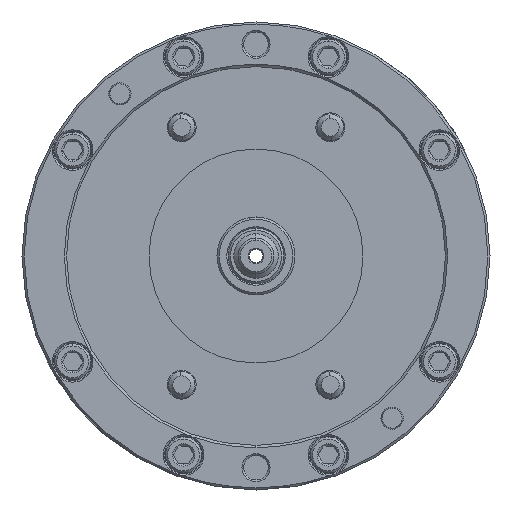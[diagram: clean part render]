
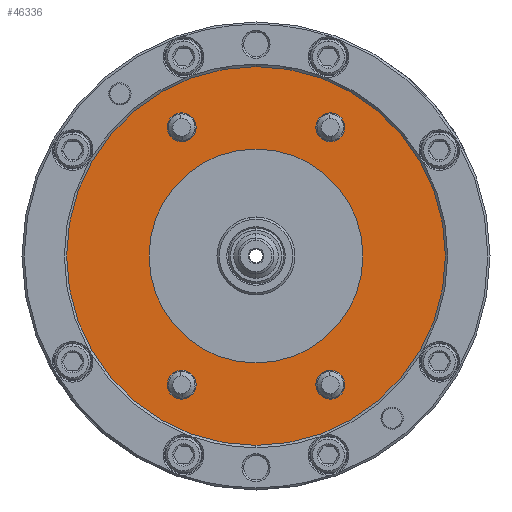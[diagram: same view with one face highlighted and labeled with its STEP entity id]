
A CAD part, left-side view. The second image highlights one B-rep face of the part: STEP entity #46336.
In plain terms, the highlighted planar face has unit normal (-1, 0, 0).
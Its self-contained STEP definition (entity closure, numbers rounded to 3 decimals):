
#1312 = CIRCLE ( 'NONE', #23426, 6.5 ) ;
#1395 = DIRECTION ( 'NONE',  ( 0., 0., 1. ) ) ;
#1400 = FACE_BOUND ( 'NONE', #44128, .T. ) ;
#2194 = DIRECTION ( 'NONE',  ( 1., 0., 0. ) ) ;
#3661 = EDGE_CURVE ( 'NONE', #8559, #10015, #21663, .T. ) ;
#4679 = DIRECTION ( 'NONE',  ( 0., 0., -1. ) ) ;
#4746 = DIRECTION ( 'NONE',  ( 1., 0., 0. ) ) ;
#4831 = CARTESIAN_POINT ( 'NONE',  ( -115., 33.35, -51.264 ) ) ;
#4921 = CARTESIAN_POINT ( 'NONE',  ( -115., 0., 0. ) ) ;
#6303 = DIRECTION ( 'NONE',  ( 1., 0., 0. ) ) ;
#6389 = EDGE_CURVE ( 'NONE', #44069, #16749, #42743, .T. ) ;
#6504 = VERTEX_POINT ( 'NONE', #15249 ) ;
#6905 = CARTESIAN_POINT ( 'NONE',  ( -115., 0., 0. ) ) ;
#7171 = ORIENTED_EDGE ( 'NONE', *, *, #19875, .T. ) ;
#7767 = CARTESIAN_POINT ( 'NONE',  ( -115., 0., 85. ) ) ;
#8559 = VERTEX_POINT ( 'NONE', #10027 ) ;
#8957 = ORIENTED_EDGE ( 'NONE', *, *, #6389, .T. ) ;
#9796 = CIRCLE ( 'NONE', #16996, 6.5 ) ;
#10015 = VERTEX_POINT ( 'NONE', #32141 ) ;
#10027 = CARTESIAN_POINT ( 'NONE',  ( -115., 33.35, 64.264 ) ) ;
#10036 = AXIS2_PLACEMENT_3D ( 'NONE', #29288, #6303, #33106 ) ;
#10405 = VERTEX_POINT ( 'NONE', #20280 ) ;
#10561 = EDGE_LOOP ( 'NONE', ( #17997, #8957 ) ) ;
#10761 = AXIS2_PLACEMENT_3D ( 'NONE', #34846, #34694, #34566 ) ;
#10811 = DIRECTION ( 'NONE',  ( 0., 0., 1. ) ) ;
#10962 = VERTEX_POINT ( 'NONE', #4831 ) ;
#11459 = DIRECTION ( 'NONE',  ( 0., 0., -1. ) ) ;
#11580 = EDGE_CURVE ( 'NONE', #20654, #10962, #47541, .T. ) ;
#13193 = ORIENTED_EDGE ( 'NONE', *, *, #34674, .F. ) ;
#14099 = CARTESIAN_POINT ( 'NONE',  ( -115., 0., 0. ) ) ;
#14761 = EDGE_CURVE ( 'NONE', #16749, #44069, #1312, .T. ) ;
#15249 = CARTESIAN_POINT ( 'NONE',  ( -115., -33.35, -64.264 ) ) ;
#16749 = VERTEX_POINT ( 'NONE', #22824 ) ;
#16996 = AXIS2_PLACEMENT_3D ( 'NONE', #17358, #43898, #21241 ) ;
#17358 = CARTESIAN_POINT ( 'NONE',  ( -115., -33.35, -57.764 ) ) ;
#17924 = DIRECTION ( 'NONE',  ( 0., 0., -1. ) ) ;
#17997 = ORIENTED_EDGE ( 'NONE', *, *, #14761, .T. ) ;
#18413 = CIRCLE ( 'NONE', #37673, 85. ) ;
#18794 = DIRECTION ( 'NONE',  ( 0., -0.866, 0.5 ) ) ;
#18839 = DIRECTION ( 'NONE',  ( 1., 0., 0. ) ) ;
#18898 = CARTESIAN_POINT ( 'NONE',  ( -115., -33.35, 57.764 ) ) ;
#19015 = CARTESIAN_POINT ( 'NONE',  ( -115., -105., 0. ) ) ;
#19745 = CARTESIAN_POINT ( 'NONE',  ( -115., 33.35, -64.264 ) ) ;
#19781 = ORIENTED_EDGE ( 'NONE', *, *, #21236, .T. ) ;
#19825 = CARTESIAN_POINT ( 'NONE',  ( -115., 0., -48. ) ) ;
#19875 = EDGE_CURVE ( 'NONE', #10405, #47562, #34377, .T. ) ;
#20043 = CIRCLE ( 'NONE', #40983, 6.5 ) ;
#20280 = CARTESIAN_POINT ( 'NONE',  ( -115., 0., 48. ) ) ;
#20654 = VERTEX_POINT ( 'NONE', #19745 ) ;
#20689 = FACE_BOUND ( 'NONE', #37708, .T. ) ;
#21234 = AXIS2_PLACEMENT_3D ( 'NONE', #18898, #18839, #18794 ) ;
#21236 = EDGE_CURVE ( 'NONE', #10962, #20654, #20043, .T. ) ;
#21241 = DIRECTION ( 'NONE',  ( 0., 0., -1. ) ) ;
#21396 = AXIS2_PLACEMENT_3D ( 'NONE', #4921, #4746, #4679 ) ;
#21644 = ORIENTED_EDGE ( 'NONE', *, *, #46136, .T. ) ;
#21663 = CIRCLE ( 'NONE', #47074, 6.5 ) ;
#21918 = FACE_BOUND ( 'NONE', #10561, .T. ) ;
#22824 = CARTESIAN_POINT ( 'NONE',  ( -115., -33.35, 51.264 ) ) ;
#22904 = PLANE ( 'NONE',  #40261 ) ;
#23426 = AXIS2_PLACEMENT_3D ( 'NONE', #44620, #44470, #44411 ) ;
#23511 = CIRCLE ( 'NONE', #42811, 6.5 ) ;
#24479 = DIRECTION ( 'NONE',  ( 1., 0., 0. ) ) ;
#24495 = DIRECTION ( 'NONE',  ( 0., 0.866, -0.5 ) ) ;
#25267 = CARTESIAN_POINT ( 'NONE',  ( -115., -33.35, -57.764 ) ) ;
#25809 = ORIENTED_EDGE ( 'NONE', *, *, #48755, .T. ) ;
#26235 = VERTEX_POINT ( 'NONE', #27048 ) ;
#26420 = ORIENTED_EDGE ( 'NONE', *, *, #39264, .T. ) ;
#26699 = AXIS2_PLACEMENT_3D ( 'NONE', #14099, #40732, #17924 ) ;
#27048 = CARTESIAN_POINT ( 'NONE',  ( -115., 0., -85. ) ) ;
#29070 = DIRECTION ( 'NONE',  ( 0., 0., -1. ) ) ;
#29288 = CARTESIAN_POINT ( 'NONE',  ( -115., 0., 0. ) ) ;
#29433 = EDGE_LOOP ( 'NONE', ( #19781, #42377 ) ) ;
#30388 = CARTESIAN_POINT ( 'NONE',  ( -115., 33.35, -57.764 ) ) ;
#30827 = FACE_BOUND ( 'NONE', #44135, .T. ) ;
#31443 = CIRCLE ( 'NONE', #36124, 6.5 ) ;
#31614 = DIRECTION ( 'NONE',  ( 1., 0., 0. ) ) ;
#32141 = CARTESIAN_POINT ( 'NONE',  ( -115., 33.35, 51.264 ) ) ;
#33106 = DIRECTION ( 'NONE',  ( 0., 0., 1. ) ) ;
#33706 = DIRECTION ( 'NONE',  ( 1., 0., 0. ) ) ;
#34358 = DIRECTION ( 'NONE',  ( 1., 0., 0. ) ) ;
#34377 = CIRCLE ( 'NONE', #21396, 48. ) ;
#34566 = DIRECTION ( 'NONE',  ( 0., 0.866, -0.5 ) ) ;
#34674 = EDGE_CURVE ( 'NONE', #36614, #26235, #18413, .T. ) ;
#34683 = ORIENTED_EDGE ( 'NONE', *, *, #49377, .F. ) ;
#34694 = DIRECTION ( 'NONE',  ( 1., 0., 0. ) ) ;
#34846 = CARTESIAN_POINT ( 'NONE',  ( -115., 33.35, -57.764 ) ) ;
#36124 = AXIS2_PLACEMENT_3D ( 'NONE', #25267, #2194, #29070 ) ;
#36614 = VERTEX_POINT ( 'NONE', #7767 ) ;
#37232 = VERTEX_POINT ( 'NONE', #39640 ) ;
#37673 = AXIS2_PLACEMENT_3D ( 'NONE', #6905, #33706, #10811 ) ;
#37708 = EDGE_LOOP ( 'NONE', ( #26420, #7171 ) ) ;
#39264 = EDGE_CURVE ( 'NONE', #47562, #10405, #48869, .T. ) ;
#39640 = CARTESIAN_POINT ( 'NONE',  ( -115., -33.35, -51.264 ) ) ;
#40055 = CIRCLE ( 'NONE', #10036, 85. ) ;
#40261 = AXIS2_PLACEMENT_3D ( 'NONE', #19015, #34358, #11459 ) ;
#40732 = DIRECTION ( 'NONE',  ( 1., 0., 0. ) ) ;
#40892 = FACE_BOUND ( 'NONE', #29433, .T. ) ;
#40983 = AXIS2_PLACEMENT_3D ( 'NONE', #30388, #31614, #24495 ) ;
#42072 = FACE_OUTER_BOUND ( 'NONE', #45629, .T. ) ;
#42377 = ORIENTED_EDGE ( 'NONE', *, *, #11580, .T. ) ;
#42743 = CIRCLE ( 'NONE', #21234, 6.5 ) ;
#42811 = AXIS2_PLACEMENT_3D ( 'NONE', #47091, #24479, #1395 ) ;
#42949 = ORIENTED_EDGE ( 'NONE', *, *, #47248, .T. ) ;
#43898 = DIRECTION ( 'NONE',  ( 1., 0., 0. ) ) ;
#44069 = VERTEX_POINT ( 'NONE', #49404 ) ;
#44128 = EDGE_LOOP ( 'NONE', ( #44691, #25809 ) ) ;
#44135 = EDGE_LOOP ( 'NONE', ( #21644, #42949 ) ) ;
#44411 = DIRECTION ( 'NONE',  ( 0., -0.866, 0.5 ) ) ;
#44470 = DIRECTION ( 'NONE',  ( 1., 0., 0. ) ) ;
#44620 = CARTESIAN_POINT ( 'NONE',  ( -115., -33.35, 57.764 ) ) ;
#44691 = ORIENTED_EDGE ( 'NONE', *, *, #3661, .T. ) ;
#45629 = EDGE_LOOP ( 'NONE', ( #13193, #34683 ) ) ;
#46136 = EDGE_CURVE ( 'NONE', #6504, #37232, #31443, .T. ) ;
#46336 = ADVANCED_FACE ( 'NONE', ( #40892, #42072, #1400, #21918, #30827, #20689 ), #22904, .F. ) ;
#47074 = AXIS2_PLACEMENT_3D ( 'NONE', #49279, #49211, #49155 ) ;
#47091 = CARTESIAN_POINT ( 'NONE',  ( -115., 33.35, 57.764 ) ) ;
#47248 = EDGE_CURVE ( 'NONE', #37232, #6504, #9796, .T. ) ;
#47541 = CIRCLE ( 'NONE', #10761, 6.5 ) ;
#47562 = VERTEX_POINT ( 'NONE', #19825 ) ;
#48755 = EDGE_CURVE ( 'NONE', #10015, #8559, #23511, .T. ) ;
#48869 = CIRCLE ( 'NONE', #26699, 48. ) ;
#49155 = DIRECTION ( 'NONE',  ( 0., 0., 1. ) ) ;
#49211 = DIRECTION ( 'NONE',  ( 1., 0., 0. ) ) ;
#49279 = CARTESIAN_POINT ( 'NONE',  ( -115., 33.35, 57.764 ) ) ;
#49377 = EDGE_CURVE ( 'NONE', #26235, #36614, #40055, .T. ) ;
#49404 = CARTESIAN_POINT ( 'NONE',  ( -115., -33.35, 64.264 ) ) ;
